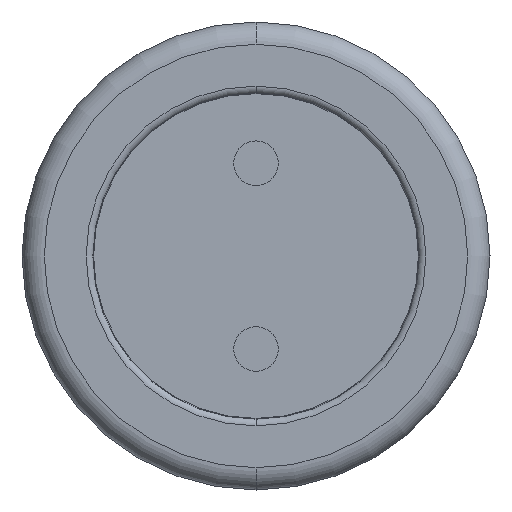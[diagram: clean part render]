
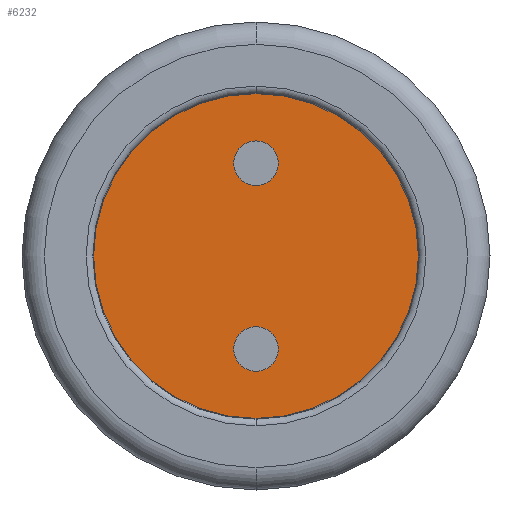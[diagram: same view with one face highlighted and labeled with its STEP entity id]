
A CAD part, left-side view. The second image highlights one B-rep face of the part: STEP entity #6232.
In plain terms, the highlighted planar face has unit normal (-1, 0, 0).
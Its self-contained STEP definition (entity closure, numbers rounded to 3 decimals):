
#40=CARTESIAN_POINT('',(-6.8,0.,0.002));
#41=DIRECTION('',(-1.,0.,0.));
#42=DIRECTION('',(0.,0.,-1.));
#43=AXIS2_PLACEMENT_3D('',#40,#41,#42);
#45=CARTESIAN_POINT('',(-6.8,0.,0.002));
#46=DIRECTION('',(1.,0.,0.));
#47=DIRECTION('',(0.,0.,-1.));
#48=AXIS2_PLACEMENT_3D('',#45,#46,#47);
#50=CARTESIAN_POINT('',(-6.8,0.,-1.25));
#51=DIRECTION('',(-1.,0.,0.));
#52=DIRECTION('',(0.,0.,-1.));
#53=AXIS2_PLACEMENT_3D('',#50,#51,#52);
#55=CARTESIAN_POINT('',(-6.8,0.,-1.25));
#56=DIRECTION('',(-1.,0.,0.));
#57=DIRECTION('',(0.,0.,1.));
#58=AXIS2_PLACEMENT_3D('',#55,#56,#57);
#60=CARTESIAN_POINT('',(-6.8,0.,1.25));
#61=DIRECTION('',(-1.,0.,0.));
#62=DIRECTION('',(0.,0.,-1.));
#63=AXIS2_PLACEMENT_3D('',#60,#61,#62);
#65=CARTESIAN_POINT('',(-6.8,0.,1.25));
#66=DIRECTION('',(-1.,0.,0.));
#67=DIRECTION('',(0.,0.,1.));
#68=AXIS2_PLACEMENT_3D('',#65,#66,#67);
#4685=CARTESIAN_POINT('',(-6.8,0.,-2.198));
#4686=VERTEX_POINT('',#4685);
#4687=CARTESIAN_POINT('',(-6.8,0.,2.202));
#4688=VERTEX_POINT('',#4687);
#4693=CARTESIAN_POINT('',(-6.8,0.,-1.55));
#4694=CARTESIAN_POINT('',(-6.8,0.,-0.95));
#4695=VERTEX_POINT('',#4693);
#4696=VERTEX_POINT('',#4694);
#4697=CARTESIAN_POINT('',(-6.8,0.,0.95));
#4698=CARTESIAN_POINT('',(-6.8,0.,1.55));
#4699=VERTEX_POINT('',#4697);
#4700=VERTEX_POINT('',#4698);
#6211=CARTESIAN_POINT('',(-6.8,0.,0.002));
#6212=DIRECTION('',(1.,0.,0.));
#6213=DIRECTION('',(0.,0.,1.));
#6214=AXIS2_PLACEMENT_3D('',#6211,#6212,#6213);
#6215=PLANE('',#6214);
#6216=ORIENTED_EDGE('',*,*,#6190,.F.);
#6217=ORIENTED_EDGE('',*,*,#6206,.T.);
#6218=EDGE_LOOP('',(#6216,#6217));
#6219=FACE_OUTER_BOUND('',#6218,.F.);
#6221=ORIENTED_EDGE('',*,*,#6220,.T.);
#6223=ORIENTED_EDGE('',*,*,#6222,.T.);
#6224=EDGE_LOOP('',(#6221,#6223));
#6225=FACE_BOUND('',#6224,.F.);
#6227=ORIENTED_EDGE('',*,*,#6226,.T.);
#6229=ORIENTED_EDGE('',*,*,#6228,.T.);
#6230=EDGE_LOOP('',(#6227,#6229));
#6231=FACE_BOUND('',#6230,.F.);
#6232=ADVANCED_FACE('',(#6219,#6225,#6231),#6215,.F.);
#44=CIRCLE('',#43,2.2);
#49=CIRCLE('',#48,2.2);
#54=CIRCLE('',#53,0.3);
#59=CIRCLE('',#58,0.3);
#64=CIRCLE('',#63,0.3);
#69=CIRCLE('',#68,0.3);
#6190=EDGE_CURVE('',#4686,#4688,#44,.T.);
#6206=EDGE_CURVE('',#4686,#4688,#49,.T.);
#6220=EDGE_CURVE('',#4695,#4696,#54,.T.);
#6222=EDGE_CURVE('',#4696,#4695,#59,.T.);
#6226=EDGE_CURVE('',#4699,#4700,#64,.T.);
#6228=EDGE_CURVE('',#4700,#4699,#69,.T.);
